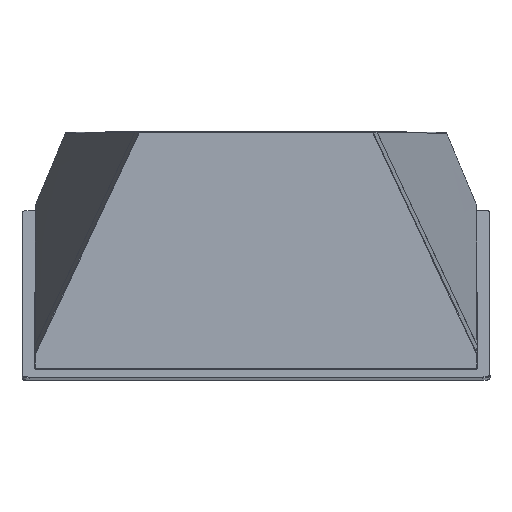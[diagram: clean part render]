
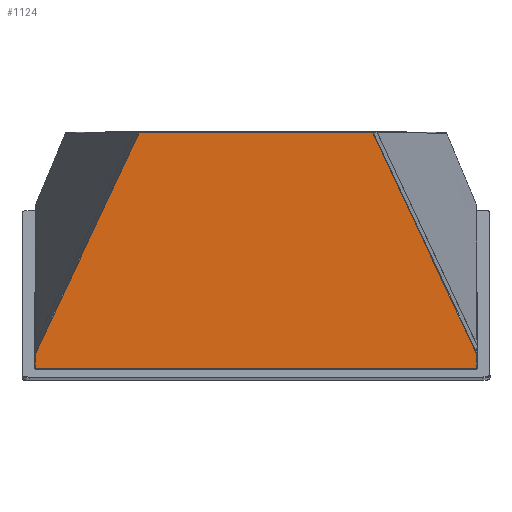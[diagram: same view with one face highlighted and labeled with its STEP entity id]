
A CAD part, top view. The second image highlights one B-rep face of the part: STEP entity #1124.
In plain terms, the highlighted planar face has unit normal (0, 0, 1).
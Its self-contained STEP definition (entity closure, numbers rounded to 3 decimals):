
#1007=CARTESIAN_POINT('',(-424.802,62.132,584.348));
#1008=DIRECTION('',(0.0,0.0,-1.0));
#1009=DIRECTION('',(1.0,0.0,0.0));
#1010=AXIS2_PLACEMENT_3D('',#1007,#1008,#1009);
#1011=PLANE('',#1010);
#1012=CARTESIAN_POINT('',(352.621,-329.788,584.348));
#1013=VERTEX_POINT('',#1012);
#1014=CARTESIAN_POINT('',(186.585,23.805,584.348));
#1015=VERTEX_POINT('',#1014);
#1016=CARTESIAN_POINT('',(352.621,-329.788,584.348));
#1017=DIRECTION('',(-0.425,0.905,0.));
#1018=VECTOR('',#1017,390.635);
#1019=LINE('',#1016,#1018);
#1020=EDGE_CURVE('',#1013,#1015,#1019,.T.);
#1021=ORIENTED_EDGE('',*,*,#1020,.T.);
#1022=CARTESIAN_POINT('',(185.663,24.386,584.348));
#1023=VERTEX_POINT('',#1022);
#1024=CARTESIAN_POINT('',(185.663,24.386,584.348));
#1025=CARTESIAN_POINT('',(185.791,24.386,584.348));
#1026=CARTESIAN_POINT('',(186.048,24.337,584.348));
#1027=CARTESIAN_POINT('',(186.379,24.129,584.348));
#1028=CARTESIAN_POINT('',(186.531,23.92,584.348));
#1029=CARTESIAN_POINT('',(186.585,23.805,584.348));
#1030=B_SPLINE_CURVE_WITH_KNOTS('',3,(#1024,#1025,#1026,#1027,#1028,#1029),.UNSPECIFIED.,.F.,.U.,(4,1,1,4),(-4.717,-4.338,-3.959,-3.579),.UNSPECIFIED.);
#1031=EDGE_CURVE('',#1023,#1015,#1030,.T.);
#1032=ORIENTED_EDGE('',*,*,#1031,.F.);
#1033=CARTESIAN_POINT('',(-185.647,24.386,584.348));
#1034=VERTEX_POINT('',#1033);
#1035=CARTESIAN_POINT('',(-185.647,24.386,584.348));
#1036=DIRECTION('',(1.0,0.0,0.0));
#1037=VECTOR('',#1036,371.31);
#1038=LINE('',#1035,#1037);
#1039=EDGE_CURVE('',#1034,#1023,#1038,.T.);
#1040=ORIENTED_EDGE('',*,*,#1039,.F.);
#1041=CARTESIAN_POINT('',(-186.569,23.805,584.348));
#1042=VERTEX_POINT('',#1041);
#1043=CARTESIAN_POINT('',(-185.647,24.386,584.348));
#1044=CARTESIAN_POINT('',(-185.776,24.386,584.348));
#1045=CARTESIAN_POINT('',(-186.032,24.337,584.348));
#1046=CARTESIAN_POINT('',(-186.363,24.129,584.348));
#1047=CARTESIAN_POINT('',(-186.515,23.92,584.348));
#1048=CARTESIAN_POINT('',(-186.569,23.805,584.348));
#1049=B_SPLINE_CURVE_WITH_KNOTS('',3,(#1043,#1044,#1045,#1046,#1047,#1048),.UNSPECIFIED.,.F.,.U.,(4,1,1,4),(-4.717,-4.338,-3.959,-3.579),.UNSPECIFIED.);
#1050=EDGE_CURVE('',#1034,#1042,#1049,.T.);
#1051=ORIENTED_EDGE('',*,*,#1050,.T.);
#1052=CARTESIAN_POINT('',(-352.621,-329.788,584.348));
#1053=VERTEX_POINT('',#1052);
#1054=CARTESIAN_POINT('',(-186.569,23.805,584.348));
#1055=DIRECTION('',(-0.425,-0.905,0.0));
#1056=VECTOR('',#1055,390.642);
#1057=LINE('',#1054,#1056);
#1058=EDGE_CURVE('',#1042,#1053,#1057,.T.);
#1059=ORIENTED_EDGE('',*,*,#1058,.T.);
#1060=CARTESIAN_POINT('',(-353.046,-331.706,584.348));
#1061=VERTEX_POINT('',#1060);
#1062=CARTESIAN_POINT('',(-352.621,-329.788,584.348));
#1063=CARTESIAN_POINT('',(-352.899,-330.38,584.348));
#1064=CARTESIAN_POINT('',(-353.046,-331.043,584.348));
#1065=CARTESIAN_POINT('',(-353.046,-331.706,584.348));
#1066=B_SPLINE_CURVE_WITH_KNOTS('',3,(#1062,#1063,#1064,#1065),.UNSPECIFIED.,.F.,.U.,(4,4),(-8.65,-6.67),.UNSPECIFIED.);
#1067=EDGE_CURVE('',#1053,#1061,#1066,.T.);
#1068=ORIENTED_EDGE('',*,*,#1067,.T.);
#1069=CARTESIAN_POINT('',(-353.047,-353.491,584.348));
#1070=VERTEX_POINT('',#1069);
#1071=CARTESIAN_POINT('',(-353.046,-331.706,584.348));
#1072=DIRECTION('',(0.,-1.,0.0));
#1073=VECTOR('',#1072,21.785);
#1074=LINE('',#1071,#1073);
#1075=EDGE_CURVE('',#1061,#1070,#1074,.T.);
#1076=ORIENTED_EDGE('',*,*,#1075,.T.);
#1077=CARTESIAN_POINT('',(-352.047,-354.561,584.348));
#1078=VERTEX_POINT('',#1077);
#1079=CARTESIAN_POINT('',(-352.047,-354.561,584.348));
#1080=CARTESIAN_POINT('',(-352.222,-354.561,584.348));
#1081=CARTESIAN_POINT('',(-352.57,-354.461,584.348));
#1082=CARTESIAN_POINT('',(-352.953,-354.051,584.348));
#1083=CARTESIAN_POINT('',(-353.047,-353.678,584.348));
#1084=CARTESIAN_POINT('',(-353.047,-353.491,584.348));
#1085=B_SPLINE_CURVE_WITH_KNOTS('',3,(#1079,#1080,#1081,#1082,#1083,#1084),.UNSPECIFIED.,.F.,.U.,(4,1,1,4),(-0.003,0.52,1.044,1.567),.UNSPECIFIED.);
#1086=EDGE_CURVE('',#1078,#1070,#1085,.T.);
#1087=ORIENTED_EDGE('',*,*,#1086,.F.);
#1088=CARTESIAN_POINT('',(352.047,-354.561,584.348));
#1089=VERTEX_POINT('',#1088);
#1090=CARTESIAN_POINT('',(-352.047,-354.561,584.348));
#1091=DIRECTION('',(1.0,0.0,0.0));
#1092=VECTOR('',#1091,704.094);
#1093=LINE('',#1090,#1092);
#1094=EDGE_CURVE('',#1078,#1089,#1093,.T.);
#1095=ORIENTED_EDGE('',*,*,#1094,.T.);
#1096=CARTESIAN_POINT('',(353.047,-353.491,584.348));
#1097=VERTEX_POINT('',#1096);
#1098=CARTESIAN_POINT('',(352.047,-354.561,584.348));
#1099=CARTESIAN_POINT('',(352.222,-354.561,584.348));
#1100=CARTESIAN_POINT('',(352.57,-354.461,584.348));
#1101=CARTESIAN_POINT('',(352.953,-354.051,584.348));
#1102=CARTESIAN_POINT('',(353.047,-353.678,584.348));
#1103=CARTESIAN_POINT('',(353.047,-353.491,584.348));
#1104=B_SPLINE_CURVE_WITH_KNOTS('',3,(#1098,#1099,#1100,#1101,#1102,#1103),.UNSPECIFIED.,.F.,.U.,(4,1,1,4),(-0.003,0.52,1.044,1.567),.UNSPECIFIED.);
#1105=EDGE_CURVE('',#1089,#1097,#1104,.T.);
#1106=ORIENTED_EDGE('',*,*,#1105,.T.);
#1107=CARTESIAN_POINT('',(353.046,-331.706,584.348));
#1108=VERTEX_POINT('',#1107);
#1109=CARTESIAN_POINT('',(353.047,-353.491,584.348));
#1110=DIRECTION('',(0.,1.,0.0));
#1111=VECTOR('',#1110,21.786);
#1112=LINE('',#1109,#1111);
#1113=EDGE_CURVE('',#1097,#1108,#1112,.T.);
#1114=ORIENTED_EDGE('',*,*,#1113,.T.);
#1115=CARTESIAN_POINT('',(353.046,-331.706,584.348));
#1116=CARTESIAN_POINT('',(353.046,-331.043,584.348));
#1117=CARTESIAN_POINT('',(352.899,-330.38,584.348));
#1118=CARTESIAN_POINT('',(352.621,-329.788,584.348));
#1119=B_SPLINE_CURVE_WITH_KNOTS('',3,(#1115,#1116,#1117,#1118),.UNSPECIFIED.,.F.,.U.,(4,4),(-20.075,-18.095),.UNSPECIFIED.);
#1120=EDGE_CURVE('',#1108,#1013,#1119,.T.);
#1121=ORIENTED_EDGE('',*,*,#1120,.T.);
#1122=EDGE_LOOP('',(#1021,#1032,#1040,#1051,#1059,#1068,#1076,#1087,#1095,#1106,#1114,#1121));
#1123=FACE_OUTER_BOUND('',#1122,.T.);
#1124=ADVANCED_FACE('',(#1123),#1011,.F.);
